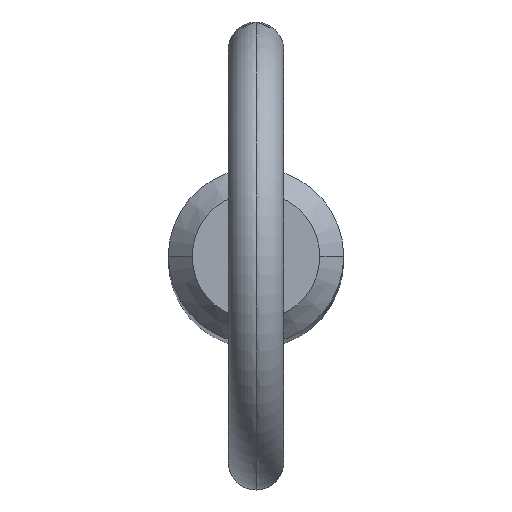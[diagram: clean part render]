
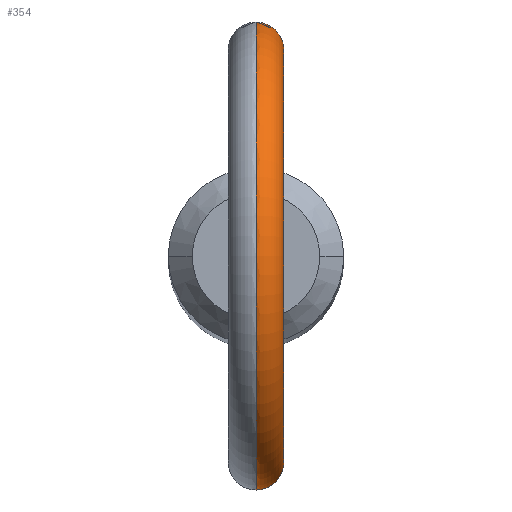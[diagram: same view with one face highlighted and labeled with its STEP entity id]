
A CAD part, top view. The second image highlights one B-rep face of the part: STEP entity #354.
In plain terms, the highlighted toroidal (fillet/blend) face has major radius 11.2 mm and minor radius 1.5 mm.
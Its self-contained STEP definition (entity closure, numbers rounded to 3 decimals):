
#1 = AXIS2_PLACEMENT_3D ( 'NONE', #129, #406, #9 ) ;
#3 = DIRECTION ( 'NONE',  ( 0., 0., -1. ) ) ;
#9 = DIRECTION ( 'NONE',  ( 0., 0., -1. ) ) ;
#17 = CARTESIAN_POINT ( 'NONE',  ( 1.188, 4.611, 122.927 ) ) ;
#27 = CARTESIAN_POINT ( 'NONE',  ( 1.178, -4.613, 120.876 ) ) ;
#35 = CARTESIAN_POINT ( 'NONE',  ( 0.997, -4.655, 123.164 ) ) ;
#40 = CARTESIAN_POINT ( 'NONE',  ( 0.105, -4.76, 120.326 ) ) ;
#54 = CARTESIAN_POINT ( 'NONE',  ( 0.104, 4.76, 120.326 ) ) ;
#58 = CARTESIAN_POINT ( 'NONE',  ( 0.207, 4.757, 120.336 ) ) ;
#65 = EDGE_CURVE ( 'NONE', #511, #443, #403, .T. ) ;
#66 = CARTESIAN_POINT ( 'NONE',  ( 1.478, -4.525, 122.152 ) ) ;
#69 = CARTESIAN_POINT ( 'NONE',  ( 0.97, -4.662, 120.65 ) ) ;
#72 = CARTESIAN_POINT ( 'NONE',  ( 0.104, -4.76, 123.648 ) ) ;
#74 = CARTESIAN_POINT ( 'NONE',  ( 1.492, -4.52, 122.048 ) ) ;
#94 = CARTESIAN_POINT ( 'NONE',  ( 1.508, 4.515, 121.737 ) ) ;
#107 = ORIENTED_EDGE ( 'NONE', *, *, #65, .F. ) ;
#111 = CARTESIAN_POINT ( 'NONE',  ( 0.409, -4.743, 123.578 ) ) ;
#119 = CARTESIAN_POINT ( 'NONE',  ( 0.411, -4.743, 120.377 ) ) ;
#123 = CARTESIAN_POINT ( 'NONE',  ( 0., 4.76, 120.326 ) ) ;
#126 = EDGE_CURVE ( 'NONE', #511, #293, #311, .T. ) ;
#127 = B_SPLINE_CURVE_WITH_KNOTS ( 'NONE', 3,
 ( #191, #72, #471, #111, #270, #512, #229, #145, #35, #194, #508, #338, #307, #66, #74, #390, #382, #481, #157, #238, #434, #148, #27, #69, #343, #360, #119, #169, #40, #355 ),
 .UNSPECIFIED., .F., .F.,
 ( 4, 2, 2, 2, 2, 2, 2, 2, 2, 2, 2, 2, 2, 2, 4 ),
 ( 0.004, 0.005, 0.005, 0.005, 0.006, 0.006, 0.007, 0.007, 0.007, 0.007, 0.008, 0.008, 0.009, 0.009, 0.009 ),
 .UNSPECIFIED. ) ;
#129 = CARTESIAN_POINT ( 'NONE',  ( 0., 0., 132.1 ) ) ;
#133 = ORIENTED_EDGE ( 'NONE', *, *, #126, .T. ) ;
#137 = ORIENTED_EDGE ( 'NONE', *, *, #328, .F. ) ;
#139 = CARTESIAN_POINT ( 'NONE',  ( 1.177, 4.613, 120.875 ) ) ;
#141 = DIRECTION ( 'NONE',  ( 1., 0., 0. ) ) ;
#145 = CARTESIAN_POINT ( 'NONE',  ( 0.925, -4.67, 123.239 ) ) ;
#148 = CARTESIAN_POINT ( 'NONE',  ( 1.24, -4.596, 120.96 ) ) ;
#152 = CIRCLE ( 'NONE', #196, 9.7 ) ;
#157 = CARTESIAN_POINT ( 'NONE',  ( 1.45, -4.534, 121.428 ) ) ;
#167 = CARTESIAN_POINT ( 'NONE',  ( 0., -4.76, 123.648 ) ) ;
#169 = CARTESIAN_POINT ( 'NONE',  ( 0.208, -4.757, 120.336 ) ) ;
#176 = CARTESIAN_POINT ( 'NONE',  ( 1.292, 4.582, 122.744 ) ) ;
#181 = CARTESIAN_POINT ( 'NONE',  ( 0.968, 4.663, 120.649 ) ) ;
#184 = CARTESIAN_POINT ( 'NONE',  ( 0.411, 4.743, 120.377 ) ) ;
#186 = ORIENTED_EDGE ( 'NONE', *, *, #479, .F. ) ;
#191 = CARTESIAN_POINT ( 'NONE',  ( 0., -4.76, 123.648 ) ) ;
#194 = CARTESIAN_POINT ( 'NONE',  ( 1.19, -4.611, 122.924 ) ) ;
#196 = AXIS2_PLACEMENT_3D ( 'NONE', #527, #494, #3 ) ;
#214 = EDGE_LOOP ( 'NONE', ( #107, #133, #186, #137 ) ) ;
#222 = CARTESIAN_POINT ( 'NONE',  ( 1.239, 4.596, 120.959 ) ) ;
#229 = CARTESIAN_POINT ( 'NONE',  ( 0.77, -4.698, 123.375 ) ) ;
#238 = CARTESIAN_POINT ( 'NONE',  ( 1.385, -4.554, 121.232 ) ) ;
#255 = CARTESIAN_POINT ( 'NONE',  ( 0.415, 4.745, 123.588 ) ) ;
#258 = CARTESIAN_POINT ( 'NONE',  ( 1.441, 4.537, 122.359 ) ) ;
#259 = CARTESIAN_POINT ( 'NONE',  ( 1.484, 4.523, 121.528 ) ) ;
#270 = CARTESIAN_POINT ( 'NONE',  ( 0.506, -4.734, 123.537 ) ) ;
#291 = CARTESIAN_POINT ( 'NONE',  ( 1.487, 4.522, 122.153 ) ) ;
#293 = VERTEX_POINT ( 'NONE', #484 ) ;
#302 = CARTESIAN_POINT ( 'NONE',  ( 0., 4.76, 123.648 ) ) ;
#307 = CARTESIAN_POINT ( 'NONE',  ( 1.434, -4.539, 122.354 ) ) ;
#311 = CIRCLE ( 'NONE', #473, 12.7 ) ;
#328 = EDGE_CURVE ( 'NONE', #443, #336, #152, .T. ) ;
#329 = CARTESIAN_POINT ( 'NONE',  ( 0., 4.76, 120.326 ) ) ;
#330 = CARTESIAN_POINT ( 'NONE',  ( 1.385, 4.554, 121.23 ) ) ;
#332 = CARTESIAN_POINT ( 'NONE',  ( 0.996, 4.655, 123.166 ) ) ;
#336 = VERTEX_POINT ( 'NONE', #167 ) ;
#338 = CARTESIAN_POINT ( 'NONE',  ( 1.404, -4.548, 122.453 ) ) ;
#343 = CARTESIAN_POINT ( 'NONE',  ( 0.797, -4.697, 120.529 ) ) ;
#354 = ADVANCED_FACE ( 'NONE', ( #492 ), #499, .T. ) ;
#355 = CARTESIAN_POINT ( 'NONE',  ( 0., -4.76, 120.326 ) ) ;
#360 = CARTESIAN_POINT ( 'NONE',  ( 0.512, -4.733, 120.408 ) ) ;
#371 = CARTESIAN_POINT ( 'NONE',  ( 0.795, 4.697, 120.528 ) ) ;
#372 = CARTESIAN_POINT ( 'NONE',  ( 0.925, 4.67, 123.24 ) ) ;
#382 = CARTESIAN_POINT ( 'NONE',  ( 1.499, -4.518, 121.737 ) ) ;
#390 = CARTESIAN_POINT ( 'NONE',  ( 1.503, -4.517, 121.84 ) ) ;
#403 = B_SPLINE_CURVE_WITH_KNOTS ( 'NONE', 3,
 ( #329, #54, #58, #184, #463, #371, #181, #139, #222, #417, #330, #259, #94, #291, #258, #176, #17, #332, #372, #421, #412, #255, #458, #500 ),
 .UNSPECIFIED., .F., .F.,
 ( 4, 2, 2, 2, 2, 2, 2, 2, 2, 2, 2, 4 ),
 ( 0.001, 0.001, 0.001, 0.002, 0.002, 0.002, 0.003, 0.004, 0.004, 0.005, 0.005, 0.006 ),
 .UNSPECIFIED. ) ;
#406 = DIRECTION ( 'NONE',  ( 1., 0., 0. ) ) ;
#412 = CARTESIAN_POINT ( 'NONE',  ( 0.685, 4.711, 123.436 ) ) ;
#417 = CARTESIAN_POINT ( 'NONE',  ( 1.343, 4.567, 121.137 ) ) ;
#421 = CARTESIAN_POINT ( 'NONE',  ( 0.771, 4.698, 123.375 ) ) ;
#434 = CARTESIAN_POINT ( 'NONE',  ( 1.344, -4.567, 121.139 ) ) ;
#443 = VERTEX_POINT ( 'NONE', #302 ) ;
#458 = CARTESIAN_POINT ( 'NONE',  ( 0.208, 4.76, 123.648 ) ) ;
#463 = CARTESIAN_POINT ( 'NONE',  ( 0.511, 4.733, 120.408 ) ) ;
#471 = CARTESIAN_POINT ( 'NONE',  ( 0.209, -4.756, 123.634 ) ) ;
#472 = DIRECTION ( 'NONE',  ( 0., 0., -1. ) ) ;
#473 = AXIS2_PLACEMENT_3D ( 'NONE', #506, #141, #472 ) ;
#479 = EDGE_CURVE ( 'NONE', #336, #293, #127, .T. ) ;
#481 = CARTESIAN_POINT ( 'NONE',  ( 1.473, -4.526, 121.531 ) ) ;
#484 = CARTESIAN_POINT ( 'NONE',  ( 0., -4.76, 120.326 ) ) ;
#492 = FACE_OUTER_BOUND ( 'NONE', #214, .T. ) ;
#494 = DIRECTION ( 'NONE',  ( 1., 0., 0. ) ) ;
#499 = TOROIDAL_SURFACE ( 'NONE', #1, 11.2, 1.5 ) ;
#500 = CARTESIAN_POINT ( 'NONE',  ( 0., 4.76, 123.648 ) ) ;
#506 = CARTESIAN_POINT ( 'NONE',  ( 0., 0., 132.1 ) ) ;
#508 = CARTESIAN_POINT ( 'NONE',  ( 1.293, -4.582, 122.742 ) ) ;
#511 = VERTEX_POINT ( 'NONE', #123 ) ;
#512 = CARTESIAN_POINT ( 'NONE',  ( 0.687, -4.711, 123.435 ) ) ;
#527 = CARTESIAN_POINT ( 'NONE',  ( 0., 0., 132.1 ) ) ;
